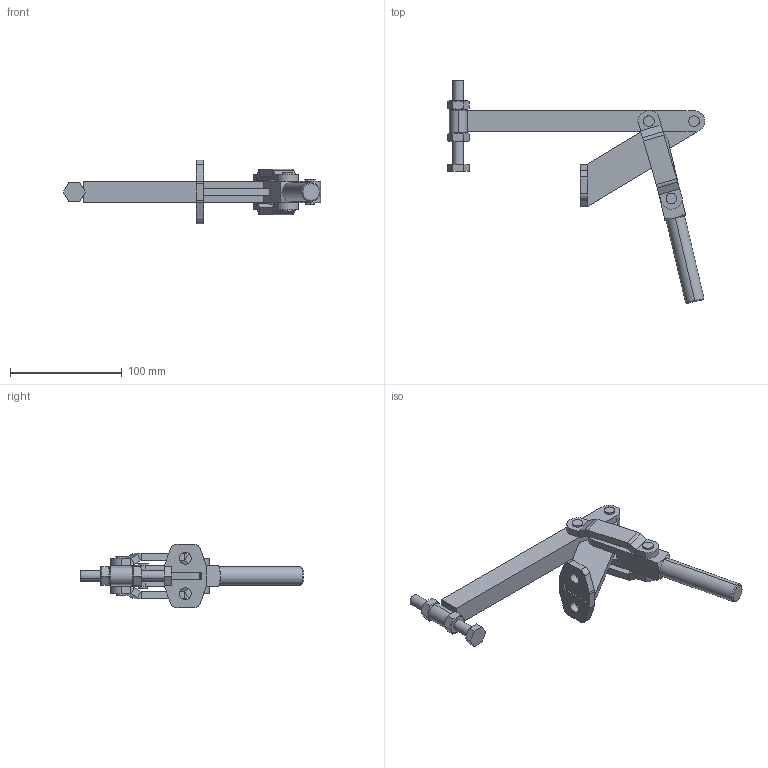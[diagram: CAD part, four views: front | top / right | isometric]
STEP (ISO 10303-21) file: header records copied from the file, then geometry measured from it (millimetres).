
FILE_DESCRIPTION (( 'STEP AP203' ), '1' );
FILE_NAME ('KF-725 F.STEP', '2011-06-02T13:58:47', ( 'Usuario' ), ( '' ), 'SwSTEP 2.0', 'SolidWorks 2011', '' );
FILE_SCHEMA (( 'CONFIG_CONTROL_DESIGN' ));
Length unit declared in the file: millimetre
Products named in the file (12): KF-725 F; PSB-M10; 12.50021; 11.50003; 20.20005; 06.50017; 06.50016; 08.10048; 01.20014; 03.20048; 02.10029; 02.10028
Assembly tree (15 placements, depth 3):
  KF-725 F
    01.20014
    PSB-M10
      12.50021
      11.50003  x2
      20.20005
    06.50016  x2
    02.10029
    06.50017  x2
    08.10048  x2
    02.10028
    03.20048
Bounding box: 230.75 x 199.91 x 57.2 mm (x, y, z)
Volume: 179756.9 mm3; surface area: 64545.4 mm2
Topology: 15 solids, 15 shells, 280 faces, 645 edges, 396 vertices
Faces by surface type: plane 142, cylinder 102, cone 34, sphere 2
Entity records: 7241 total; most frequent: CARTESIAN_POINT 1100, DIRECTION 1067, ORIENTED_EDGE 930, EDGE_CURVE 465, AXIS2_PLACEMENT_3D 397, VERTEX_POINT 294, LINE 273, VECTOR 273
